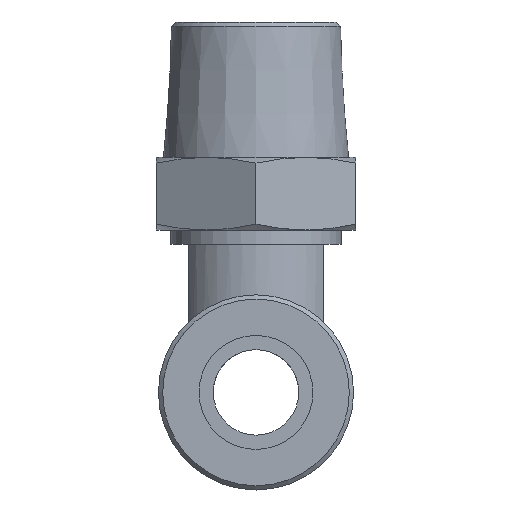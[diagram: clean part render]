
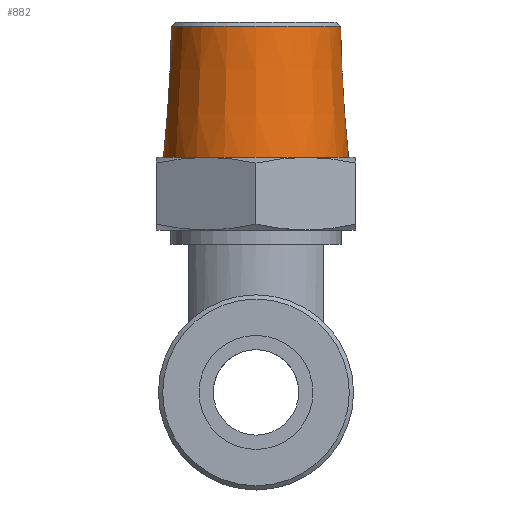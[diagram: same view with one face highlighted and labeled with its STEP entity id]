
A CAD part, front view. The second image highlights one B-rep face of the part: STEP entity #882.
In plain terms, the highlighted conical face has half-angle 3.5 degrees and reference radius 6.21 mm.
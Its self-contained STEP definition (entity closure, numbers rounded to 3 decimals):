
#78=CONICAL_SURFACE('',#973,6.209,0.061);
#97=FACE_OUTER_BOUND('',#159,.T.);
#159=EDGE_LOOP('',(#606,#607,#608,#609,#610));
#237=LINE('',#1415,#279);
#279=VECTOR('',#1116,6.209);
#321=CIRCLE('',#971,5.937);
#322=CIRCLE('',#972,5.937);
#323=CIRCLE('',#974,6.5);
#386=VERTEX_POINT('',#1408);
#387=VERTEX_POINT('',#1410);
#388=VERTEX_POINT('',#1414);
#469=EDGE_CURVE('',#386,#387,#321,.T.);
#470=EDGE_CURVE('',#387,#386,#322,.T.);
#471=EDGE_CURVE('',#387,#388,#237,.T.);
#472=EDGE_CURVE('',#388,#388,#323,.T.);
#606=ORIENTED_EDGE('',*,*,#469,.F.);
#607=ORIENTED_EDGE('',*,*,#470,.F.);
#608=ORIENTED_EDGE('',*,*,#471,.T.);
#609=ORIENTED_EDGE('',*,*,#472,.F.);
#610=ORIENTED_EDGE('',*,*,#471,.F.);
#882=ADVANCED_FACE('',(#97),#78,.T.);
#971=AXIS2_PLACEMENT_3D('',#1411,#1110,#1111);
#972=AXIS2_PLACEMENT_3D('',#1412,#1112,#1113);
#973=AXIS2_PLACEMENT_3D('',#1413,#1114,#1115);
#974=AXIS2_PLACEMENT_3D('',#1416,#1117,#1118);
#1110=DIRECTION('center_axis',(0.,0.,1.));
#1111=DIRECTION('ref_axis',(0.,-1.,0.));
#1112=DIRECTION('center_axis',(0.,0.,1.));
#1113=DIRECTION('ref_axis',(0.,-1.,0.));
#1114=DIRECTION('center_axis',(0.,0.,-1.));
#1115=DIRECTION('ref_axis',(0.,1.,0.));
#1116=DIRECTION('',(0.,-0.061,-0.998));
#1117=DIRECTION('center_axis',(0.,0.,-1.));
#1118=DIRECTION('ref_axis',(0.,1.,0.));
#1408=CARTESIAN_POINT('',(0.,5.937,25.701));
#1410=CARTESIAN_POINT('',(0.,-5.937,25.701));
#1411=CARTESIAN_POINT('Origin',(0.,0.,
25.701));
#1412=CARTESIAN_POINT('Origin',(0.,0.,
25.701));
#1413=CARTESIAN_POINT('Origin',(0.,0.,21.25));
#1414=CARTESIAN_POINT('',(0.,-6.5,16.5));
#1415=CARTESIAN_POINT('',(0.,-6.209,21.25));
#1416=CARTESIAN_POINT('Origin',(0.,0.,16.5));
